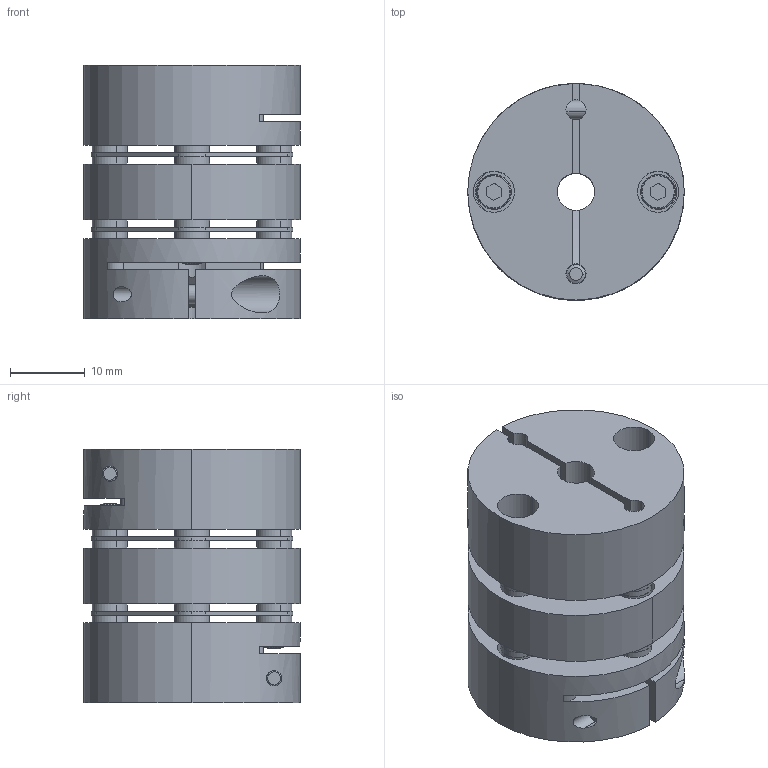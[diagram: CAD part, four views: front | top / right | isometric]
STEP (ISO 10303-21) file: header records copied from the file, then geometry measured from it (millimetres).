
FILE_DESCRIPTION (( 'STEP AP214' ), '1' );
FILE_NAME ('LC-A-025DA-5B-5B.STEP', '2019-09-12T07:15:14', ( 'admin' ), ( 'Microsoft' ), 'SwSTEP 2.0', 'SolidWorks 2016', '' );
FILE_SCHEMA (( 'AUTOMOTIVE_DESIGN' ));
Length unit declared in the file: millimetre
Products named in the file (1): LC-A-025DA-5B-5B
Bounding box: 29 x 29 x 34 mm (x, y, z)
Volume: 15855.8 mm3; surface area: 12636.8 mm2
Topology: 31 solids, 31 shells, 452 faces, 1046 edges, 676 vertices
Faces by surface type: cylinder 214, plane 178, torus 40, cone 20
Entity records: 18722 total; most frequent: CARTESIAN_POINT 2503, DIRECTION 2456, ORIENTED_EDGE 2092, EDGE_CURVE 1046, AXIS2_PLACEMENT_3D 981, VERTEX_POINT 676, EDGE_LOOP 566, CIRCLE 528
